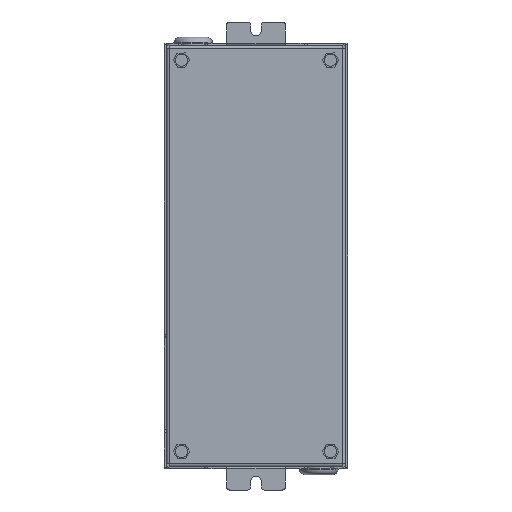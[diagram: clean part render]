
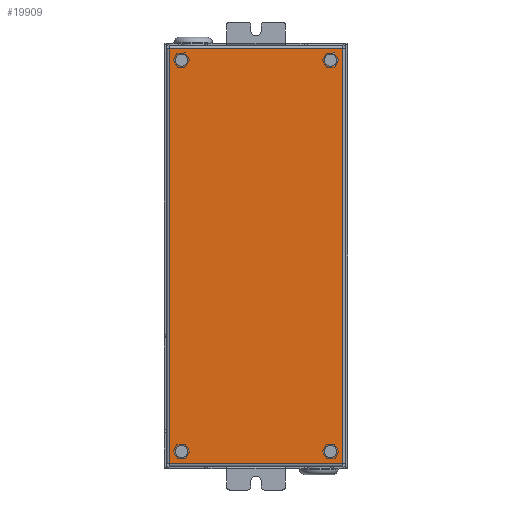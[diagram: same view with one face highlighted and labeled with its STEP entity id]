
A CAD part, front view. The second image highlights one B-rep face of the part: STEP entity #19909.
In plain terms, the highlighted planar face has unit normal (0, -1, 0).
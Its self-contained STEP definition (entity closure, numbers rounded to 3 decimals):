
#222 = ORIENTED_EDGE ( 'NONE', *, *, #3703, .T. ) ;
#367 = FACE_BOUND ( 'NONE', #28055, .T. ) ;
#455 = VERTEX_POINT ( 'NONE', #13325 ) ;
#533 = EDGE_LOOP ( 'NONE', ( #12838, #7091 ) ) ;
#1034 = DIRECTION ( 'NONE',  ( 0., 0., -1. ) ) ;
#1513 = VERTEX_POINT ( 'NONE', #13441 ) ;
#2429 = FACE_BOUND ( 'NONE', #15248, .T. ) ;
#2467 = LINE ( 'NONE', #11606, #4832 ) ;
#2508 = EDGE_LOOP ( 'NONE', ( #6235, #9228 ) ) ;
#2904 = EDGE_CURVE ( 'NONE', #16763, #18663, #28127, .T. ) ;
#2976 = CARTESIAN_POINT ( 'NONE',  ( -30.4, -0.8, 71.7 ) ) ;
#3184 = CARTESIAN_POINT ( 'NONE',  ( 25.4, -0.8, -66.6 ) ) ;
#3494 = CARTESIAN_POINT ( 'NONE',  ( -25.4, -0.8, 66.7 ) ) ;
#3549 = LINE ( 'NONE', #7322, #13095 ) ;
#3620 = EDGE_CURVE ( 'NONE', #20700, #4011, #9389, .T. ) ;
#3703 = EDGE_CURVE ( 'NONE', #22171, #8579, #21690, .T. ) ;
#4011 = VERTEX_POINT ( 'NONE', #15497 ) ;
#4153 = ORIENTED_EDGE ( 'NONE', *, *, #7124, .T. ) ;
#4797 = CARTESIAN_POINT ( 'NONE',  ( -25.4, -0.8, -64.5 ) ) ;
#4832 = VECTOR ( 'NONE', #11423, 1000. ) ;
#4936 = DIRECTION ( 'NONE',  ( -1., 0., 0. ) ) ;
#5020 = DIRECTION ( 'NONE',  ( 0., 1., 0. ) ) ;
#5067 = EDGE_CURVE ( 'NONE', #8789, #1513, #14813, .T. ) ;
#5120 = EDGE_CURVE ( 'NONE', #455, #27006, #3549, .T. ) ;
#5271 = DIRECTION ( 'NONE',  ( 0., 1., 0. ) ) ;
#5274 = CARTESIAN_POINT ( 'NONE',  ( 25.4, -0.8, -64.5 ) ) ;
#5685 = DIRECTION ( 'NONE',  ( 0., 1., 0. ) ) ;
#6163 = FACE_BOUND ( 'NONE', #2508, .T. ) ;
#6235 = ORIENTED_EDGE ( 'NONE', *, *, #2904, .T. ) ;
#6805 = CARTESIAN_POINT ( 'NONE',  ( -25.4, -0.8, 68.8 ) ) ;
#7074 = PLANE ( 'NONE',  #21551 ) ;
#7091 = ORIENTED_EDGE ( 'NONE', *, *, #12850, .T. ) ;
#7124 = EDGE_CURVE ( 'NONE', #1513, #455, #2467, .T. ) ;
#7278 = VECTOR ( 'NONE', #13716, 1000. ) ;
#7322 = CARTESIAN_POINT ( 'NONE',  ( -29.5, -0.8, -70.8 ) ) ;
#7888 = DIRECTION ( 'NONE',  ( 0., 0., -1. ) ) ;
#7968 = LINE ( 'NONE', #11340, #7278 ) ;
#7979 = CARTESIAN_POINT ( 'NONE',  ( -25.4, -0.8, -66.6 ) ) ;
#8051 = ORIENTED_EDGE ( 'NONE', *, *, #28162, .T. ) ;
#8090 = AXIS2_PLACEMENT_3D ( 'NONE', #18152, #5020, #11605 ) ;
#8238 = EDGE_LOOP ( 'NONE', ( #26304, #19861, #25264, #4153 ) ) ;
#8351 = VECTOR ( 'NONE', #4936, 1000. ) ;
#8579 = VERTEX_POINT ( 'NONE', #4797 ) ;
#8596 = AXIS2_PLACEMENT_3D ( 'NONE', #16290, #27213, #24986 ) ;
#8604 = CARTESIAN_POINT ( 'NONE',  ( 25.4, -0.8, -68.7 ) ) ;
#8789 = VERTEX_POINT ( 'NONE', #20662 ) ;
#9228 = ORIENTED_EDGE ( 'NONE', *, *, #21251, .T. ) ;
#9389 = CIRCLE ( 'NONE', #8090, 2.1 ) ;
#10208 = CIRCLE ( 'NONE', #11870, 2.1 ) ;
#10441 = AXIS2_PLACEMENT_3D ( 'NONE', #3494, #5685, #7888 ) ;
#10491 = CIRCLE ( 'NONE', #12326, 2.1 ) ;
#11340 = CARTESIAN_POINT ( 'NONE',  ( 29.5, -0.8, -71.7 ) ) ;
#11423 = DIRECTION ( 'NONE',  ( 0., 0., -1. ) ) ;
#11605 = DIRECTION ( 'NONE',  ( 0., 0., 1. ) ) ;
#11606 = CARTESIAN_POINT ( 'NONE',  ( -29.5, -0.8, 71.7 ) ) ;
#11639 = FACE_OUTER_BOUND ( 'NONE', #8238, .T. ) ;
#11739 = ORIENTED_EDGE ( 'NONE', *, *, #26148, .T. ) ;
#11870 = AXIS2_PLACEMENT_3D ( 'NONE', #24118, #23831, #21547 ) ;
#11983 = AXIS2_PLACEMENT_3D ( 'NONE', #19308, #17117, #12498 ) ;
#12008 = VERTEX_POINT ( 'NONE', #16401 ) ;
#12326 = AXIS2_PLACEMENT_3D ( 'NONE', #27234, #14098, #1034 ) ;
#12498 = DIRECTION ( 'NONE',  ( 0., 0., 1. ) ) ;
#12838 = ORIENTED_EDGE ( 'NONE', *, *, #21098, .T. ) ;
#12850 = EDGE_CURVE ( 'NONE', #12008, #27886, #15946, .T. ) ;
#13095 = VECTOR ( 'NONE', #22231, 1000. ) ;
#13325 = CARTESIAN_POINT ( 'NONE',  ( -29.5, -0.8, -70.8 ) ) ;
#13441 = CARTESIAN_POINT ( 'NONE',  ( -29.5, -0.8, 70.8 ) ) ;
#13716 = DIRECTION ( 'NONE',  ( 0., 0., 1. ) ) ;
#13957 = CIRCLE ( 'NONE', #10441, 2.1 ) ;
#14098 = DIRECTION ( 'NONE',  ( 0., 1., 0. ) ) ;
#14813 = LINE ( 'NONE', #20061, #8351 ) ;
#15248 = EDGE_LOOP ( 'NONE', ( #11739, #222 ) ) ;
#15497 = CARTESIAN_POINT ( 'NONE',  ( 25.4, -0.8, 64.6 ) ) ;
#15946 = CIRCLE ( 'NONE', #8596, 2.1 ) ;
#16181 = EDGE_CURVE ( 'NONE', #27006, #8789, #7968, .T. ) ;
#16290 = CARTESIAN_POINT ( 'NONE',  ( -25.4, -0.8, 66.7 ) ) ;
#16334 = AXIS2_PLACEMENT_3D ( 'NONE', #7979, #23251, #20690 ) ;
#16401 = CARTESIAN_POINT ( 'NONE',  ( -25.4, -0.8, 64.6 ) ) ;
#16763 = VERTEX_POINT ( 'NONE', #5274 ) ;
#17117 = DIRECTION ( 'NONE',  ( 0., 1., 0. ) ) ;
#18152 = CARTESIAN_POINT ( 'NONE',  ( 25.4, -0.8, 66.7 ) ) ;
#18232 = DIRECTION ( 'NONE',  ( 0., 0., 1. ) ) ;
#18663 = VERTEX_POINT ( 'NONE', #8604 ) ;
#18898 = AXIS2_PLACEMENT_3D ( 'NONE', #3184, #5271, #18232 ) ;
#19308 = CARTESIAN_POINT ( 'NONE',  ( 25.4, -0.8, 66.7 ) ) ;
#19861 = ORIENTED_EDGE ( 'NONE', *, *, #16181, .T. ) ;
#19909 = ADVANCED_FACE ( 'NONE', ( #2429, #21550, #367, #6163, #11639 ), #7074, .F. ) ;
#20061 = CARTESIAN_POINT ( 'NONE',  ( 29.5, -0.8, 70.8 ) ) ;
#20662 = CARTESIAN_POINT ( 'NONE',  ( 29.5, -0.8, 70.8 ) ) ;
#20690 = DIRECTION ( 'NONE',  ( 0., 0., -1. ) ) ;
#20700 = VERTEX_POINT ( 'NONE', #21494 ) ;
#21098 = EDGE_CURVE ( 'NONE', #27886, #12008, #13957, .T. ) ;
#21251 = EDGE_CURVE ( 'NONE', #18663, #16763, #10208, .T. ) ;
#21494 = CARTESIAN_POINT ( 'NONE',  ( 25.4, -0.8, 68.8 ) ) ;
#21547 = DIRECTION ( 'NONE',  ( 0., 0., 1. ) ) ;
#21550 = FACE_BOUND ( 'NONE', #533, .T. ) ;
#21551 = AXIS2_PLACEMENT_3D ( 'NONE', #2976, #27560, #26990 ) ;
#21690 = CIRCLE ( 'NONE', #16334, 2.1 ) ;
#22171 = VERTEX_POINT ( 'NONE', #23088 ) ;
#22231 = DIRECTION ( 'NONE',  ( 1., 0., 0. ) ) ;
#22733 = CIRCLE ( 'NONE', #11983, 2.1 ) ;
#22990 = ORIENTED_EDGE ( 'NONE', *, *, #3620, .T. ) ;
#23088 = CARTESIAN_POINT ( 'NONE',  ( -25.4, -0.8, -68.7 ) ) ;
#23251 = DIRECTION ( 'NONE',  ( 0., 1., 0. ) ) ;
#23831 = DIRECTION ( 'NONE',  ( 0., 1., 0. ) ) ;
#24118 = CARTESIAN_POINT ( 'NONE',  ( 25.4, -0.8, -66.6 ) ) ;
#24986 = DIRECTION ( 'NONE',  ( 0., 0., -1. ) ) ;
#25264 = ORIENTED_EDGE ( 'NONE', *, *, #5067, .T. ) ;
#26148 = EDGE_CURVE ( 'NONE', #8579, #22171, #10491, .T. ) ;
#26228 = CARTESIAN_POINT ( 'NONE',  ( 29.5, -0.8, -70.8 ) ) ;
#26304 = ORIENTED_EDGE ( 'NONE', *, *, #5120, .T. ) ;
#26990 = DIRECTION ( 'NONE',  ( 0., 0., 1. ) ) ;
#27006 = VERTEX_POINT ( 'NONE', #26228 ) ;
#27213 = DIRECTION ( 'NONE',  ( 0., 1., 0. ) ) ;
#27234 = CARTESIAN_POINT ( 'NONE',  ( -25.4, -0.8, -66.6 ) ) ;
#27560 = DIRECTION ( 'NONE',  ( 0., 1., 0. ) ) ;
#27886 = VERTEX_POINT ( 'NONE', #6805 ) ;
#28055 = EDGE_LOOP ( 'NONE', ( #22990, #8051 ) ) ;
#28127 = CIRCLE ( 'NONE', #18898, 2.1 ) ;
#28162 = EDGE_CURVE ( 'NONE', #4011, #20700, #22733, .T. ) ;
